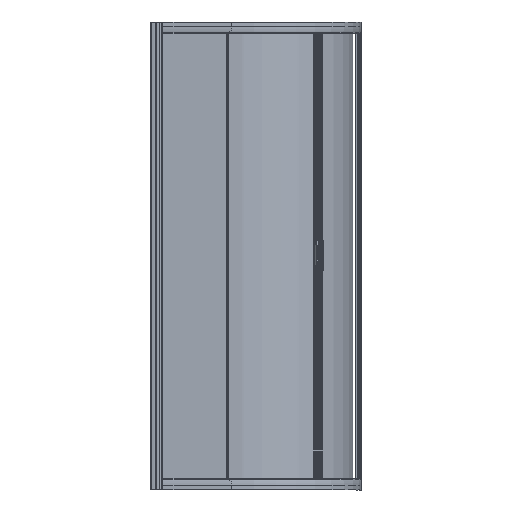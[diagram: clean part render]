
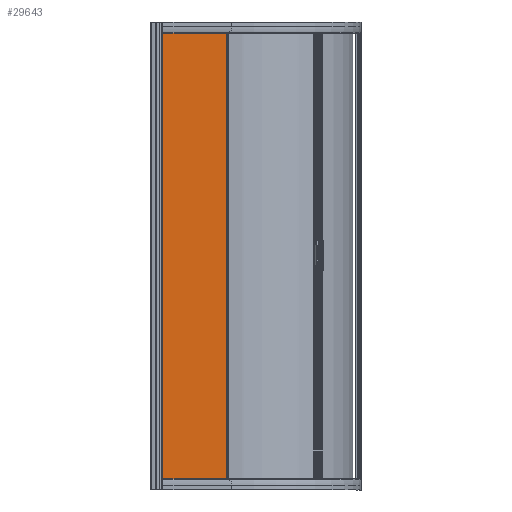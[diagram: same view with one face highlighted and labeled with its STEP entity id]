
A CAD part, left-side view. The second image highlights one B-rep face of the part: STEP entity #29643.
In plain terms, the highlighted planar face has unit normal (-1, 0, 0) as drawn and (0, 0, 1) by its records, which use the part's own axes.
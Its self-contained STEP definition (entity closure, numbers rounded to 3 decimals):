
#1855=LINE('',#44413,#4526);
#1858=LINE('',#44419,#4529);
#1861=LINE('',#44425,#4532);
#1864=LINE('',#44429,#4535);
#4526=VECTOR('',#35895,1829.);
#4529=VECTOR('',#35900,272.);
#4532=VECTOR('',#35905,1829.);
#4535=VECTOR('',#35910,272.);
#6884=PLANE('',#31827);
#8656=FACE_OUTER_BOUND('',#10454,.T.);
#10454=EDGE_LOOP('',(#22043,#22044,#22045,#22046));
#13633=VERTEX_POINT('',#44410);
#13634=VERTEX_POINT('',#44412);
#13636=VERTEX_POINT('',#44418);
#13638=VERTEX_POINT('',#44424);
#16796=EDGE_CURVE('',#13634,#13633,#1855,.T.);
#16799=EDGE_CURVE('',#13636,#13634,#1858,.T.);
#16802=EDGE_CURVE('',#13638,#13636,#1861,.T.);
#16805=EDGE_CURVE('',#13633,#13638,#1864,.T.);
#22043=ORIENTED_EDGE('',*,*,#16805,.T.);
#22044=ORIENTED_EDGE('',*,*,#16802,.T.);
#22045=ORIENTED_EDGE('',*,*,#16799,.T.);
#22046=ORIENTED_EDGE('',*,*,#16796,.T.);
#29643=ADVANCED_FACE('',(#8656),#6884,.T.);
#31827=AXIS2_PLACEMENT_3D('',#44430,#35911,#35912);
#35895=DIRECTION('',(0.,-1.,0.));
#35900=DIRECTION('',(-1.,0.,0.));
#35905=DIRECTION('',(0.,1.,0.));
#35910=DIRECTION('',(1.,0.,0.));
#35911=DIRECTION('center_axis',(0.,0.,1.));
#35912=DIRECTION('ref_axis',(1.,0.,0.));
#44410=CARTESIAN_POINT('',(28.,-1.,4.));
#44412=CARTESIAN_POINT('',(28.,1828.,4.));
#44413=CARTESIAN_POINT('',(28.,1828.,4.));
#44418=CARTESIAN_POINT('',(300.,1828.,4.));
#44419=CARTESIAN_POINT('',(300.,1828.,4.));
#44424=CARTESIAN_POINT('',(300.,-1.,4.));
#44425=CARTESIAN_POINT('',(300.,-1.,4.));
#44429=CARTESIAN_POINT('',(28.,-1.,4.));
#44430=CARTESIAN_POINT('Origin',(164.,913.5,4.));
